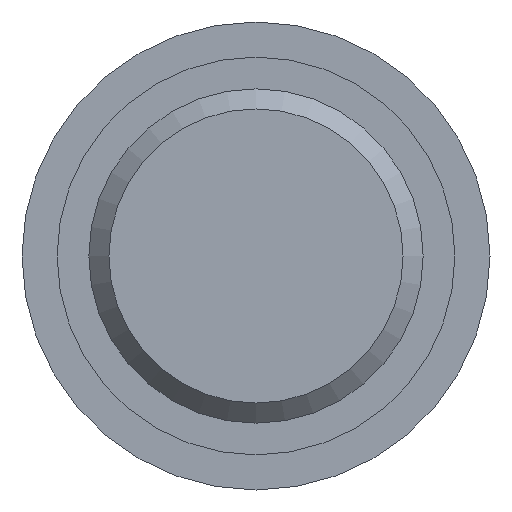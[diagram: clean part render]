
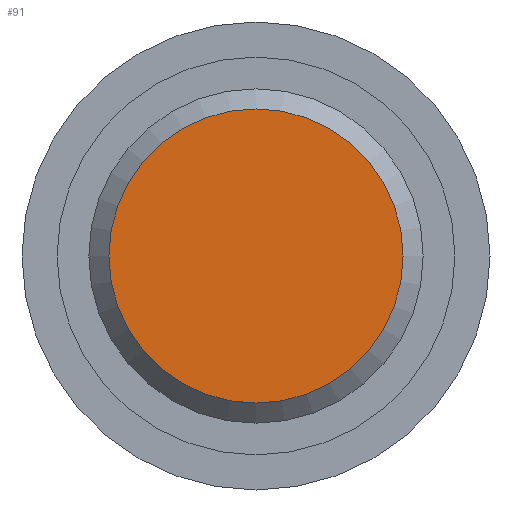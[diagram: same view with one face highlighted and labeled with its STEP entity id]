
A CAD part, front view. The second image highlights one B-rep face of the part: STEP entity #91.
In plain terms, the highlighted planar face has unit normal (0, -1, 0).
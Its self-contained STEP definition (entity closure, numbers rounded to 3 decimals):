
#91 = ADVANCED_FACE( '', ( #138 ), #139, .F. );
#138 = FACE_OUTER_BOUND( '', #193, .T. );
#139 = PLANE( '', #194 );
#193 = EDGE_LOOP( '', ( #308 ) );
#194 = AXIS2_PLACEMENT_3D( '', #309, #310, #311 );
#308 = ORIENTED_EDGE( '', *, *, #359, .T. );
#309 = CARTESIAN_POINT( '', ( 4.4, 0., 0. ) );
#310 = DIRECTION( '', ( 0., 1., 0. ) );
#311 = DIRECTION( '', ( 0., 0., 1. ) );
#359 = EDGE_CURVE( '', #411, #411, #412, .T. );
#411 = VERTEX_POINT( '', #485 );
#412 = CIRCLE( '', #486, 4.4 );
#485 = CARTESIAN_POINT( '', ( 0., 0., -4.4 ) );
#486 = AXIS2_PLACEMENT_3D( '', #538, #539, #540 );
#538 = CARTESIAN_POINT( '', ( 0., 0., 0. ) );
#539 = DIRECTION( '', ( 0., -1., 0. ) );
#540 = DIRECTION( '', ( 0., 0., -1. ) );
